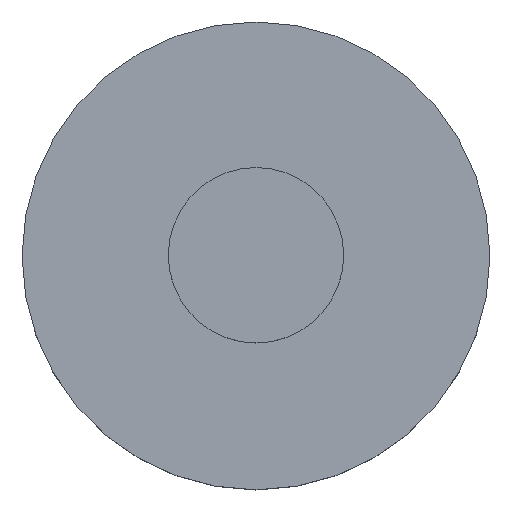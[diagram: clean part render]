
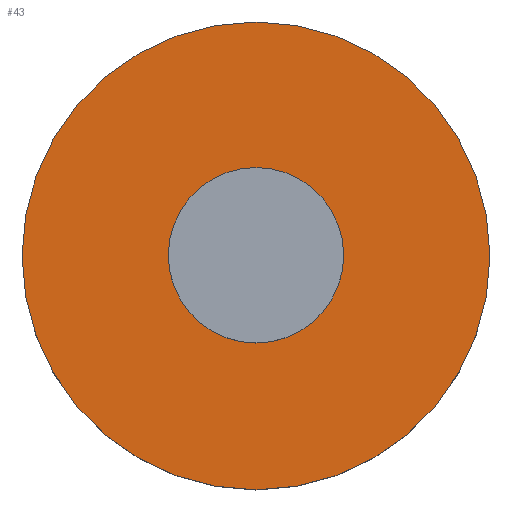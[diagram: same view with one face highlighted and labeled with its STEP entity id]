
A CAD part, top view. The second image highlights one B-rep face of the part: STEP entity #43.
In plain terms, the highlighted planar face has unit normal (0, 0, 1).
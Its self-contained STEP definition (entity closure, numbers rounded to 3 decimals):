
#43 = ADVANCED_FACE('',(#44),#64,.T.);
#44 = FACE_BOUND('',#45,.T.);
#45 = EDGE_LOOP('',(#46,#57));
#46 = ORIENTED_EDGE('',*,*,#47,.T.);
#47 = EDGE_CURVE('',#48,#50,#52,.T.);
#48 = VERTEX_POINT('',#49);
#49 = CARTESIAN_POINT('',(-24.,0.,
    10.));
#50 = VERTEX_POINT('',#51);
#51 = CARTESIAN_POINT('',(24.,0.,
    10.));
#52 = CIRCLE('',#53,24.);
#53 = AXIS2_PLACEMENT_3D('',#54,#55,#56);
#54 = CARTESIAN_POINT('',(0.,0.,
    10.));
#55 = DIRECTION('',(0.,0.,1.));
#56 = DIRECTION('',(1.,0.,-0.));
#57 = ORIENTED_EDGE('',*,*,#58,.T.);
#58 = EDGE_CURVE('',#50,#48,#59,.T.);
#59 = CIRCLE('',#60,24.);
#60 = AXIS2_PLACEMENT_3D('',#61,#62,#63);
#61 = CARTESIAN_POINT('',(0.,0.,
    10.));
#62 = DIRECTION('',(0.,0.,1.));
#63 = DIRECTION('',(1.,0.,-0.));
#64 = PLANE('',#65);
#65 = AXIS2_PLACEMENT_3D('',#66,#67,#68);
#66 = CARTESIAN_POINT('',(24.,0.,
    10.));
#67 = DIRECTION('',(0.,0.,1.));
#68 = DIRECTION('',(0.,1.,0.));
